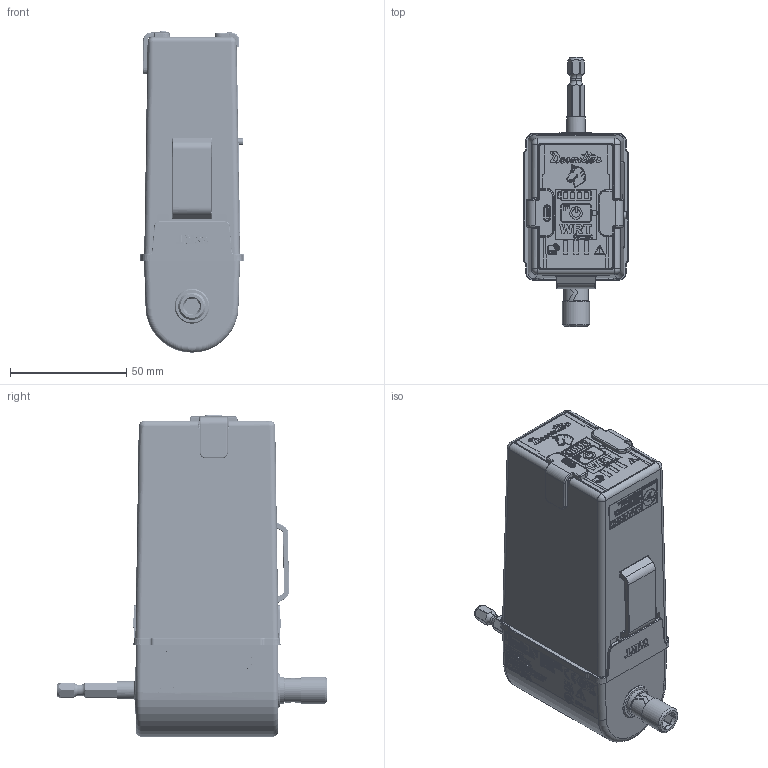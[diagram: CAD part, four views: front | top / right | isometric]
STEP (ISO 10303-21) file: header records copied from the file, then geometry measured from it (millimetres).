
FILE_DESCRIPTION((''),'2;1');
FILE_NAME('6152210530_DIM','2024-03-01T15:27:26',('S00000450'),(''),'CREO PARAMETRIC BY PTC INC, 2023254','CREO PARAMETRIC BY PTC INC, 2023254','');
FILE_SCHEMA(('AP242_MANAGED_MODEL_BASED_3D_ENGINEERING_MIM_LF { 1 0 10303 442 1 1 4 }'));
Products named in the file (1): 6152210530_DIM
Bounding box: 45 x 115.8 x 138.33 mm (x, y, z)
Volume: 117970.6 mm3; surface area: 94697.9 mm2
Topology: 1 solids, 1 shells, 9050 faces, 24802 edges, 16261 vertices
Faces by surface type: plane 4295, extrusion 3259, cylinder 855, cone 321, torus 171, bspline 135, sphere 14
Entity records: 372070 total; most frequent: CARTESIAN_POINT 99649, ORIENTED_EDGE 49476, DIRECTION 34327, EDGE_CURVE 24738, VECTOR 18509, VERTEX_POINT 16261, LINE 15250, B_SPLINE_CURVE_WITH_KNOTS 10494
